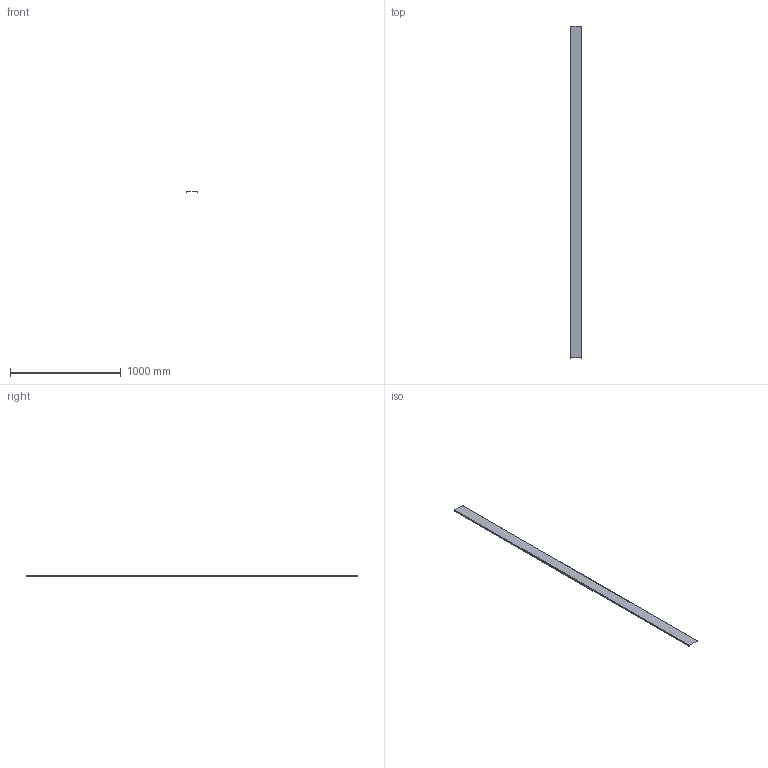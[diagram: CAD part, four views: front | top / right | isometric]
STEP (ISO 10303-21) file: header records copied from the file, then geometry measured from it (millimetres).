
FILE_DESCRIPTION(/* description */ ('','CAx-IF Rec.Pracs.---Representation and Presentation of Product Manufacturing Information (PMI)---4.0---2014-10-13'),/* implementation_level */ '2;1');
FILE_NAME(/* name */ 'GE-KTK1-10-S6.step',/* time_stamp */ '2025-03-24T13:27:00+03:00',/* author */ (''),/* organization */ (''),/* preprocessor_version */ 'ST-DEVELOPER v20',/* originating_system */ 'Autodesk Translation Framework v13.20.0.188',/* authorisation */ '');
FILE_SCHEMA (('AP242_MANAGED_MODEL_BASED_3D_ENGINEERING_MIM_LF { 1 0 10303 442 1 1 4 }'));
Length unit declared in the file: millimetre
Products named in the file (1): GE-KTK1-10-S6
Bounding box: 104 x 3000 x 12 mm (x, y, z)
Volume: 371562 mm3; surface area: 749371.6 mm2
Topology: 1 solids, 1 shells, 14 faces, 36 edges, 24 vertices
Faces by surface type: plane 10, cylinder 4
Entity records: 461 total; most frequent: CARTESIAN_POINT 75, DIRECTION 74, ORIENTED_EDGE 72, EDGE_CURVE 36, LINE 28, VECTOR 28, VERTEX_POINT 24, AXIS2_PLACEMENT_3D 23
